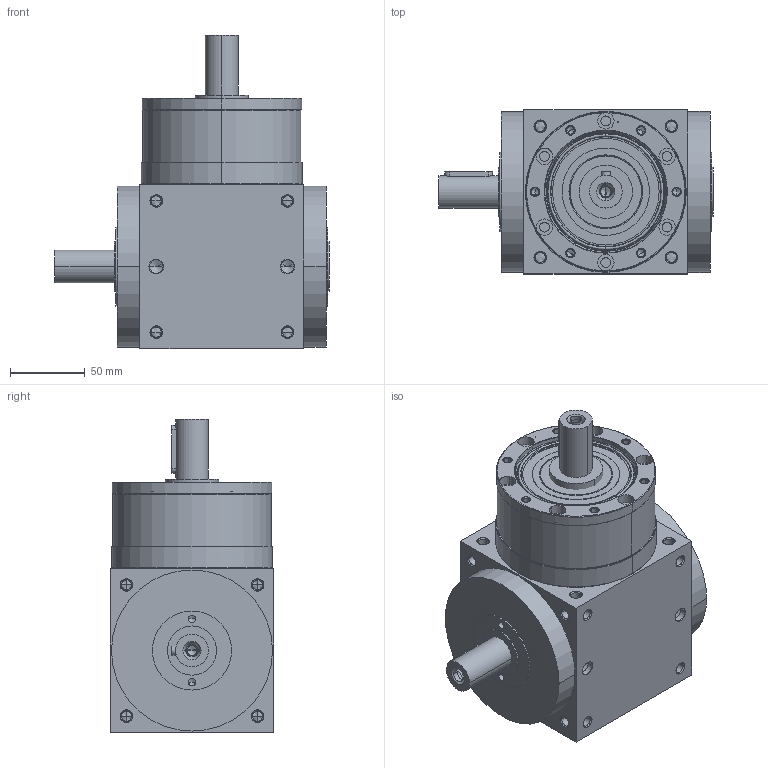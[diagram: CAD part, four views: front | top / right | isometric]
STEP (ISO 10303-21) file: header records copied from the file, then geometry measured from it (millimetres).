
FILE_DESCRIPTION((''),'2;1');
FILE_NAME('AT110L1-1_ASM','2008-12-31T',('d00176'),(''),'PRO/ENGINEER BY PARAMETRIC TECHNOLOGY CORPORATION, 2006170','PRO/ENGINEER BY PARAMETRIC TECHNOLOGY CORPORATION, 2006170','');
FILE_SCHEMA(('CONFIG_CONTROL_DESIGN'));
Length unit declared in the file: millimetre
Products named in the file (4): ATL1-HOUSING-1-5; P1801500001; 22400071005; AT110L1-1_ASM
Assembly tree (3 placements, depth 2):
  AT110L1-1_ASM
    ATL1-HOUSING-1-5
    P1801500001
    22400071005
Bounding box: 184 x 110 x 210 mm (x, y, z)
Volume: 1980052.8 mm3; surface area: 188841.6 mm2
Topology: 4 solids, 36 shells, 580 faces, 1450 edges, 859 vertices
Faces by surface type: cylinder 274, cone 196, plane 76, torus 34
Entity records: 17510 total; most frequent: CARTESIAN_POINT 3728, DIRECTION 3094, ORIENTED_EDGE 2616, EDGE_CURVE 1372, AXIS2_PLACEMENT_3D 1299, VERTEX_POINT 859, CIRCLE 708, EDGE_LOOP 687
